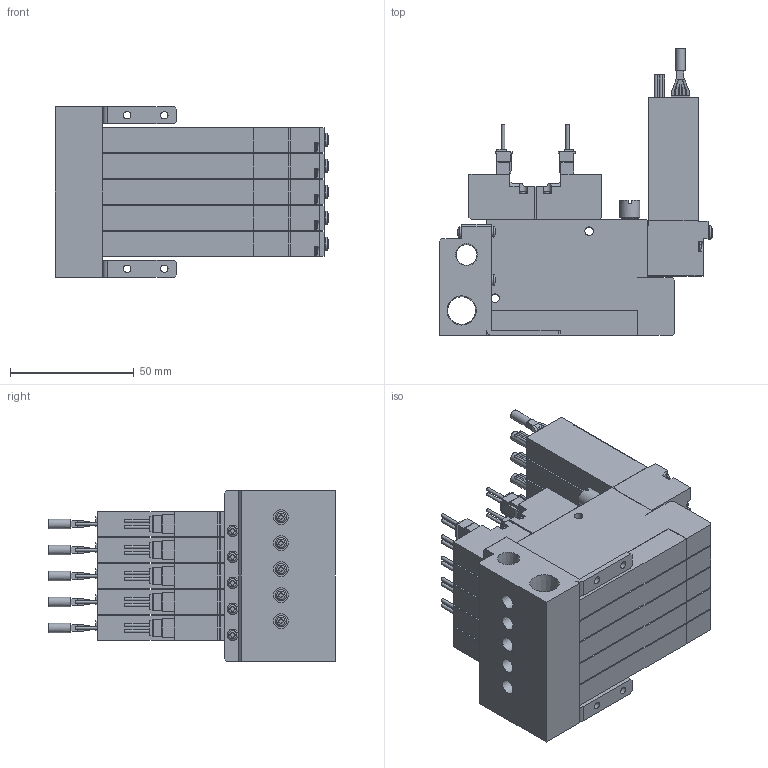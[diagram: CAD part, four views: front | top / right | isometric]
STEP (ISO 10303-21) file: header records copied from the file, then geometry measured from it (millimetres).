
FILE_DESCRIPTION(('STEP AP203'),'1');
FILE_NAME('10C5SC505_3D.stp','2024-09-04T22:52:35',(' '),(' '),'Spatial InterOp 3D',' ',' ');
FILE_SCHEMA(('CONFIG_CONTROL_DESIGN'));
Length unit declared in the file: millimetre
Products named in the file (5): BSC1M※※10C5SC505; Solenoid valve S; Pressure Sensor 10; Unit-C; BaseMC50R
Assembly tree (16 placements, depth 2):
  BSC1M※※10C5SC505
    Solenoid valve S  x5
    Pressure Sensor 10  x5
    Unit-C  x5
    BaseMC50R
Bounding box: 110.35 x 115.8 x 69 mm (x, y, z)
Volume: 330964.3 mm3; surface area: 114795 mm2
Topology: 16 solids, 16 shells, 2212 faces, 5951 edges, 3930 vertices
Faces by surface type: plane 1697, cylinder 418, cone 39, torus 29, sphere 29
Full cylindrical faces by diameter (mm): 0.9 x20, 1.4 x20, 2.5 x10, 3 x24, 3.5 x40, 3.8 x5, 4 x5, 4.134 x10, 4.5 x14, 5.5 x10, 6 x5, 7 x10, 8 x5, 8.422 x1, 11.233 x1
Entity records: 20666 total; most frequent: CARTESIAN_POINT 4628, DIRECTION 3219, ORIENTED_EDGE 3100, EDGE_CURVE 1550, VERTEX_POINT 1091, AXIS2_PLACEMENT_3D 1079, LINE 1061, VECTOR 1061
